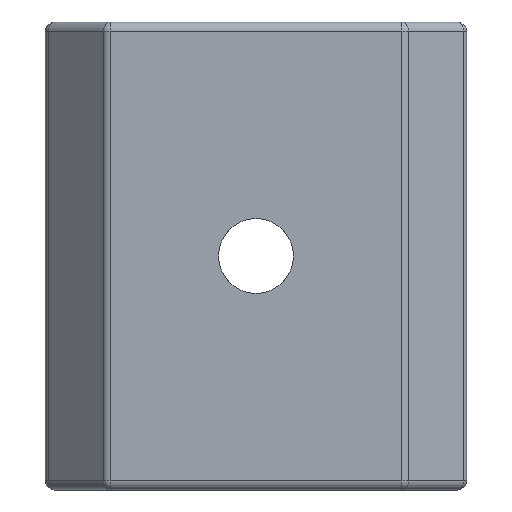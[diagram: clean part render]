
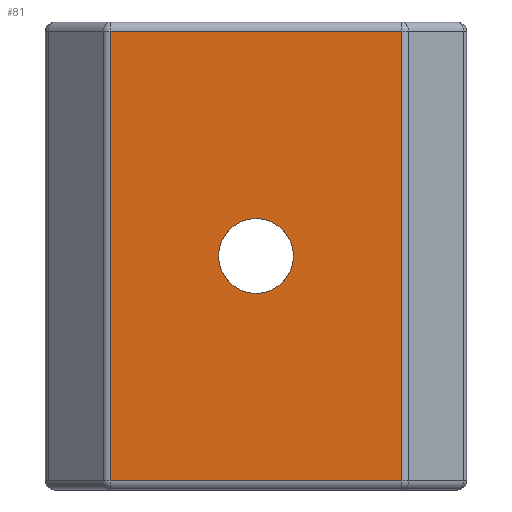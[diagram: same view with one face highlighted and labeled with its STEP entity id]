
A CAD part, front view. The second image highlights one B-rep face of the part: STEP entity #81.
In plain terms, the highlighted planar face has unit normal (0, -1, 0).
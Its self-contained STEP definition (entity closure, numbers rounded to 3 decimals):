
#16 = CARTESIAN_POINT ( 'NONE',  ( -4.239, -5.2, -20. ) ) ;
#39 = CARTESIAN_POINT ( 'NONE',  ( 2.161, -5.2, -8.4 ) ) ;
#53 = ORIENTED_EDGE ( 'NONE', *, *, #1030, .T. ) ;
#78 = EDGE_CURVE ( 'NONE', #130, #584, #719, .T. ) ;
#81 = ADVANCED_FACE ( 'NONE', ( #1779, #546 ), #1839, .T. ) ;
#130 = VERTEX_POINT ( 'NONE', #2021 ) ;
#140 = CARTESIAN_POINT ( 'NONE',  ( 2.161, -5.2, -10. ) ) ;
#164 = VERTEX_POINT ( 'NONE', #39 ) ;
#179 = CARTESIAN_POINT ( 'NONE',  ( 8.395, -5.2, -0.4 ) ) ;
#365 = AXIS2_PLACEMENT_3D ( 'NONE', #515, #2339, #876 ) ;
#495 = DIRECTION ( 'NONE',  ( 1., 0., 0. ) ) ;
#515 = CARTESIAN_POINT ( 'NONE',  ( 2.161, -5.2, -10. ) ) ;
#546 = FACE_BOUND ( 'NONE', #1283, .T. ) ;
#584 = VERTEX_POINT ( 'NONE', #1618 ) ;
#719 = LINE ( 'NONE', #1832, #1378 ) ;
#756 = DIRECTION ( 'NONE',  ( 1., 0., 0. ) ) ;
#854 = ORIENTED_EDGE ( 'NONE', *, *, #1551, .T. ) ;
#868 = CARTESIAN_POINT ( 'NONE',  ( 8.395, -5.2, -20. ) ) ;
#876 = DIRECTION ( 'NONE',  ( 1., 0., 0. ) ) ;
#893 = CIRCLE ( 'NONE', #1638, 1.6 ) ;
#996 = LINE ( 'NONE', #868, #1487 ) ;
#1000 = DIRECTION ( 'NONE',  ( -1., 0., 0. ) ) ;
#1030 = EDGE_CURVE ( 'NONE', #1260, #1444, #1404, .T. ) ;
#1064 = AXIS2_PLACEMENT_3D ( 'NONE', #16, #1305, #756 ) ;
#1073 = DIRECTION ( 'NONE',  ( 0., 1., 0. ) ) ;
#1079 = EDGE_CURVE ( 'NONE', #1925, #164, #2109, .T. ) ;
#1116 = EDGE_CURVE ( 'NONE', #584, #1260, #996, .T. ) ;
#1229 = DIRECTION ( 'NONE',  ( 0., 0., 1. ) ) ;
#1260 = VERTEX_POINT ( 'NONE', #179 ) ;
#1283 = EDGE_LOOP ( 'NONE', ( #854, #2145 ) ) ;
#1305 = DIRECTION ( 'NONE',  ( 0., -1., 0. ) ) ;
#1325 = CARTESIAN_POINT ( 'NONE',  ( -4.073, -5.2, -20. ) ) ;
#1339 = ORIENTED_EDGE ( 'NONE', *, *, #1395, .T. ) ;
#1340 = DIRECTION ( 'NONE',  ( 0., 0., -1. ) ) ;
#1378 = VECTOR ( 'NONE', #2015, 1000. ) ;
#1395 = EDGE_CURVE ( 'NONE', #1444, #130, #1401, .T. ) ;
#1401 = LINE ( 'NONE', #1325, #1964 ) ;
#1404 = LINE ( 'NONE', #1562, #2311 ) ;
#1444 = VERTEX_POINT ( 'NONE', #2298 ) ;
#1487 = VECTOR ( 'NONE', #1229, 1000. ) ;
#1551 = EDGE_CURVE ( 'NONE', #164, #1925, #893, .T. ) ;
#1562 = CARTESIAN_POINT ( 'NONE',  ( -4.239, -5.2, -0.4 ) ) ;
#1618 = CARTESIAN_POINT ( 'NONE',  ( 8.395, -5.2, -19.6 ) ) ;
#1638 = AXIS2_PLACEMENT_3D ( 'NONE', #140, #1073, #495 ) ;
#1711 = CARTESIAN_POINT ( 'NONE',  ( 2.161, -5.2, -11.6 ) ) ;
#1728 = ORIENTED_EDGE ( 'NONE', *, *, #78, .T. ) ;
#1779 = FACE_OUTER_BOUND ( 'NONE', #2330, .T. ) ;
#1832 = CARTESIAN_POINT ( 'NONE',  ( -4.239, -5.2, -19.6 ) ) ;
#1839 = PLANE ( 'NONE',  #1064 ) ;
#1925 = VERTEX_POINT ( 'NONE', #1711 ) ;
#1964 = VECTOR ( 'NONE', #1340, 1000. ) ;
#2015 = DIRECTION ( 'NONE',  ( 1., 0., 0. ) ) ;
#2021 = CARTESIAN_POINT ( 'NONE',  ( -4.073, -5.2, -19.6 ) ) ;
#2109 = CIRCLE ( 'NONE', #365, 1.6 ) ;
#2145 = ORIENTED_EDGE ( 'NONE', *, *, #1079, .T. ) ;
#2182 = ORIENTED_EDGE ( 'NONE', *, *, #1116, .T. ) ;
#2298 = CARTESIAN_POINT ( 'NONE',  ( -4.073, -5.2, -0.4 ) ) ;
#2311 = VECTOR ( 'NONE', #1000, 1000. ) ;
#2330 = EDGE_LOOP ( 'NONE', ( #53, #1339, #1728, #2182 ) ) ;
#2339 = DIRECTION ( 'NONE',  ( 0., 1., 0. ) ) ;
